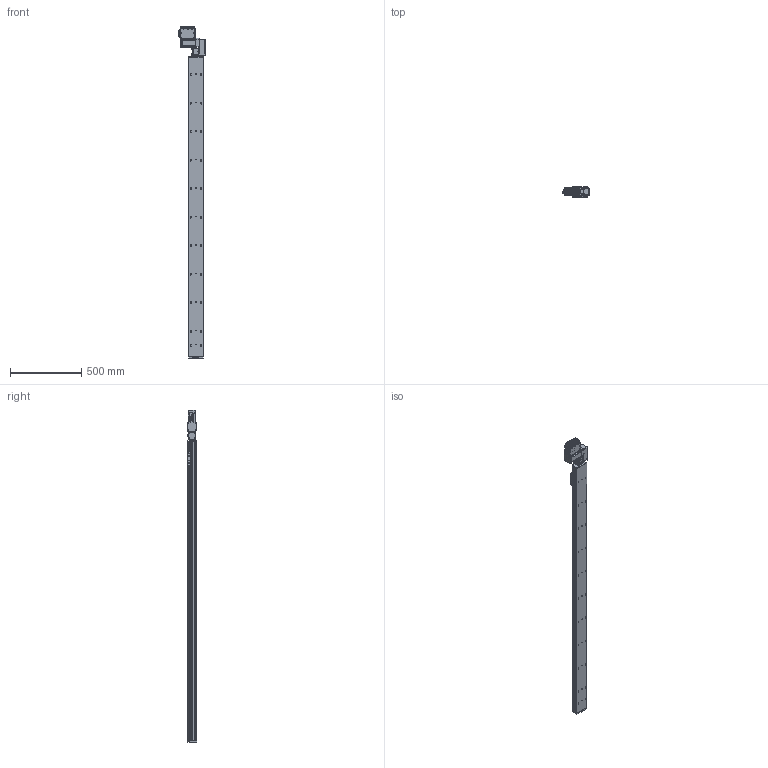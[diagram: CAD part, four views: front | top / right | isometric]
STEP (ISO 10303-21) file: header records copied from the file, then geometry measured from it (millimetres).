
FILE_DESCRIPTION (( 'STEP AP203' ), '1' );
FILE_NAME ('S10 TBN RH S2100.STEP', '2012-06-18T09:31:05', ( 'Conseil Régional Haute-Normandie' ), ( 'Conseil Régional Haute-Normandie' ), 'SwSTEP 2.0', 'SolidWorks 2010', '' );
FILE_SCHEMA (( 'CONFIG_CONTROL_DESIGN' ));
Products named in the file (30): cache t皻e axe_Default; palette tbn; Assem1_7; T_X2_00F4_X0_le contre le moteur_5; BU41 Carte Alimentation P05_3; T_X2_00F4_X0_le fond_3; Connecteur rond D10 3cts_5; T_X2_00F4_X0_le lat_X2_00E9_X0_rale_5; T_X2_00F4_X0_le Arri_X2_00E8_X0_re_5; Vis TF 3 torkx_1_1; Vis TF 3 torkx; S10 TBN RH S2100; axe 2100; embout; cache t皻e_Default; plaque de bout s10_Default; Plaque racord_Default; renvoi LH_Default; Colonnette_3; BU45 Carte d''axe A11_5; Moteur 60BLDC90A_3; Couvercle_3; Connecteur rond D12 4cts_5; Sub D 9cts 90_X2_00B_X0__3; Radiateur profil_X2_00E9_X0_ 100x25_3; Colonnette ronde_3; Cvis M5 L30_Default; vis M5 L12_Default; Vis M5 L16-2_Default_1; vis M5 L5_Default
Assembly tree (69 placements, depth 3):
  S10 TBN RH S2100
    vis M5 L5_Default  x4
    Vis M5 L16-2_Default_1  x4
    Vis TF 3 torkx  x7
    renvoi LH_Default
    vis M5 L12_Default  x4
    palette tbn
    axe 2100
    embout
    plaque de bout s10_Default
    cache t皻e_Default  x2
    Cvis M5 L30_Default  x2
    Assem1_7
      Sub D 9cts 90_X2_00B_X0__3
      Radiateur profil_X2_00E9_X0_ 100x25_3
      Vis TF 3 torkx_1_1  x21
      T_X2_00F4_X0_le lat_X2_00E9_X0_rale_5  x2
      Moteur 60BLDC90A_3
      Connecteur rond D10 3cts_5  x2
      Colonnette_3  x2
      Couvercle_3
      BU45 Carte d''axe A11_5
      T_X2_00F4_X0_le contre le moteur_5
      BU41 Carte Alimentation P05_3
      T_X2_00F4_X0_le Arri_X2_00E8_X0_re_5
      Connecteur rond D12 4cts_5
      Colonnette ronde_3
      T_X2_00F4_X0_le fond_3
    cache t皻e axe_Default
    Plaque racord_Default
Bounding box: 189.8 x 66.75 x 2328.5 mm (x, y, z)
Volume: 11731837.2 mm3; surface area: 1303745.2 mm2
Topology: 68 solids, 68 shells, 2569 faces, 6367 edges, 4111 vertices
Faces by surface type: plane 1225, cylinder 1105, cone 196, bspline 40, torus 3
Entity records: 50803 total; most frequent: CARTESIAN_POINT 9084, DIRECTION 8234, ORIENTED_EDGE 7438, EDGE_CURVE 3719, AXIS2_PLACEMENT_3D 3072, VERTEX_POINT 2427, VECTOR 2090, LINE 2090
